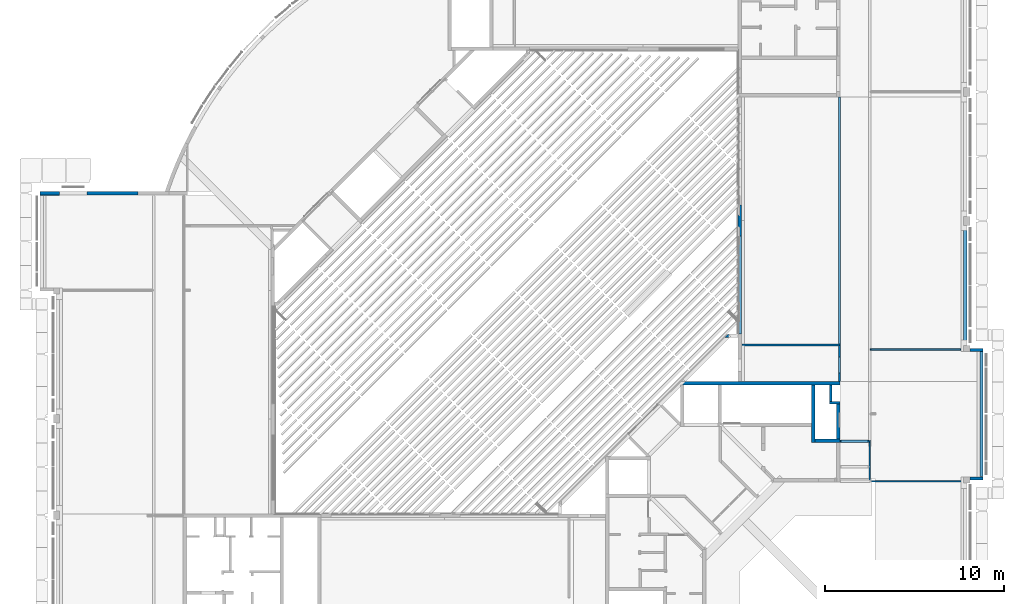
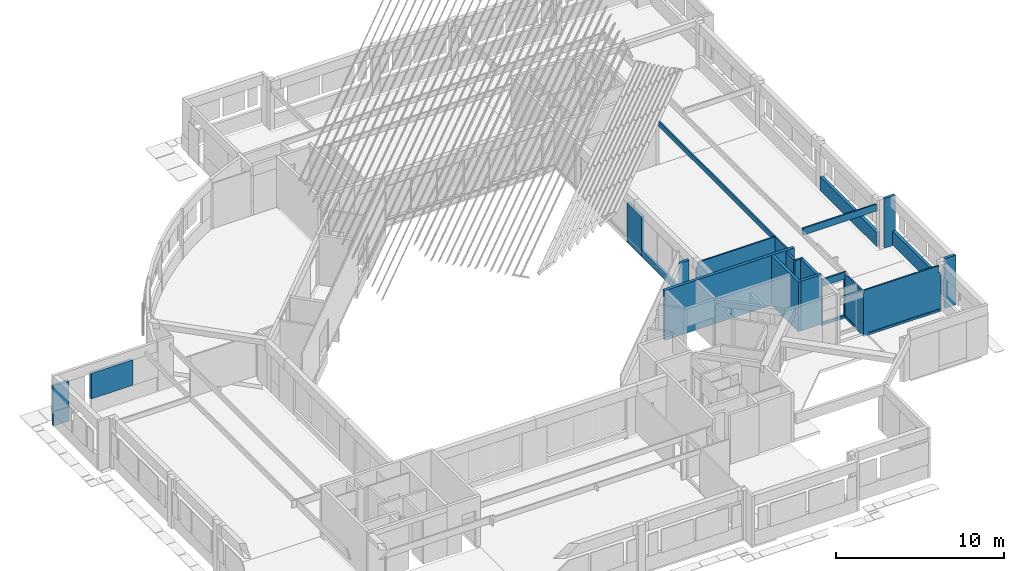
# One storey, part 28 of 37: 24 walls.
"""IFC4X3_ADD2 building model written with IfcOpenShell, lengths in millimetres."""

from ifc_helpers import new_model, si_unit, direction, frame, frame_2d, origin_with_axes, origin_2d_with_axis, place, context, subcontext, project, spatial, polyline, rectangle, outline, extrude, source, transform, mapped, material, type_object, type_shapes, element, save


model = new_model("IFC4X3_ADD2")

# Units and contexts
model_context = context("Model", 3, precision=1e-05, world=origin_with_axes(), true_north=direction((0.0, 1.0)))
body_context = subcontext(model_context, "Body", "Model", "MODEL_VIEW")
ifc_project = project(units=[si_unit("LENGTHUNIT", "METRE", prefix="MILLI"), si_unit("AREAUNIT", "SQUARE_METRE"), si_unit("VOLUMEUNIT", "CUBIC_METRE"), si_unit("PLANEANGLEUNIT", "RADIAN"), si_unit("TIMEUNIT", "SECOND"), si_unit("MASSUNIT", "GRAM")], contexts=[model_context])

# Site, building, storey
site_placement = place(None, origin_with_axes())
site = spatial("IfcSite", under=ifc_project, at=site_placement, Name="Site", CompositionType="ELEMENT")
building_placement = place(site_placement, origin_with_axes())
building = spatial("IfcBuilding", under=site, at=building_placement, Name="IFC Building Story")
storey_placement = place(building_placement, frame((0.0, 0.0, 3600.0), z_axis=(0.0, 0.0, 1.0), x_axis=(1.0, 0.0, 0.0)))
storey = spatial("IfcBuildingStorey", under=building, at=storey_placement, Name="010", Elevation=3600.0)

# Walls
ifc_material_1 = material(Name="BB_Beton_Bestaand")
wall_type_1 = type_object("IfcWallType", Name="BB_Beton_Bestaand 200", PredefinedType="NOTDEFINED", material=ifc_material_1)
wall_1_placement = place(storey_placement, origin_with_axes())
element("IfcWall", 1, at=wall_1_placement, inside=storey, type_object=wall_type_1, Name="Basic Wall:BB_XX_Wand uit beton, 200 mm", ObjectType="Basic Wall:BB_XX_Wand uit beton, 200 mm", PredefinedType="SOLIDWALL", context=body_context, shape_type="SweptSolid", body=[
    extrude(rectangle(XDim=8914.99999999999, YDim=200.0, at=origin_2d_with_axis()), frame((-11457.5, 20000.0, -80.0), z_axis=(0.0, 0.0, 1.0), x_axis=(1.0, 0.0, 0.0)), (0.0, 0.0, 1.0), 3600.0),
])
wall_2_placement = place(storey_placement, origin_with_axes())
element("IfcWall", 2, at=wall_2_placement, inside=storey, type_object=wall_type_1, Name="Basic Wall:BB_XX_Wand uit beton, 200 mm", ObjectType="Basic Wall:BB_XX_Wand uit beton, 200 mm", PredefinedType="SOLIDWALL", context=body_context, shape_type="SweptSolid", body=[
    extrude(rectangle(XDim=3199.999999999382, YDim=200.0, at=frame_2d((0.0, 0.0), x_axis=(0.0, 1.0))), frame((-8500.0, 18300.00000000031, -80.0), z_axis=(0.0, 0.0, 1.0), x_axis=(1.0, 0.0, 0.0)), (0.0, 0.0, 1.0), 3600.0),
])
wall_3_placement = place(storey_placement, origin_with_axes())
element("IfcWall", 3, at=wall_3_placement, inside=storey, type_object=wall_type_1, Name="Basic Wall:BB_XX_Wand uit beton, 200 mm", ObjectType="Basic Wall:BB_XX_Wand uit beton, 200 mm", PredefinedType="SOLIDWALL", context=body_context, shape_type="SweptSolid", body=[
    extrude(rectangle(XDim=1399.999999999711, YDim=200.0, at=origin_2d_with_axis()), frame((-7700.000000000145, 16800.0, -80.0), z_axis=(0.0, 0.0, 1.0), x_axis=(1.0, 0.0, 0.0)), (0.0, 0.0, 1.0), 3600.0),
])
wall_type_2 = type_object("IfcWallType", Name="BB_Beton_Bestaand 190", PredefinedType="NOTDEFINED", material=ifc_material_1)
wall_4_placement = place(storey_placement, origin_with_axes())
element("IfcWall", 4, at=wall_4_placement, inside=storey, type_object=wall_type_2, Name="Basic Wall:BB_XX_Wand uit beton, 190 mm", ObjectType="Basic Wall:BB_XX_Wand uit beton, 190 mm", PredefinedType="SOLIDWALL", context=body_context, shape_type="SweptSolid", body=[
    extrude(rectangle(XDim=1089.99999999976, YDim=190.0, at=origin_2d_with_axis()), frame((-51150.00000000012, 30600.0, -200.0), z_axis=(0.0, 0.0, 1.0), x_axis=(1.0, 0.0, 0.0)), (0.0, 0.0, 1.0), 1040.0),
])
wall_5_placement = place(storey_placement, origin_with_axes())
element("IfcWall", 5, at=wall_5_placement, inside=storey, type_object=wall_type_2, Name="Basic Wall:BB_XX_Wand uit beton, 190 mm", ObjectType="Basic Wall:BB_XX_Wand uit beton, 190 mm", PredefinedType="SOLIDWALL", context=body_context, shape_type="SweptSolid", body=[
    extrude(rectangle(XDim=7010.0000000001, YDim=190.0, at=frame_2d((0.0, 0.0), x_axis=(0.0, 1.0))), frame((900.0, 18299.99999999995, -200.0), z_axis=(0.0, 0.0, 1.0), x_axis=(1.0, 0.0, 0.0)), (0.0, 0.0, 1.0), 1040.0),
])
wall_6_placement = place(storey_placement, origin_with_axes())
element("IfcWall", 6, at=wall_6_placement, inside=storey, type_object=wall_type_2, Name="Basic Wall:BB_XX_Wand uit beton, 190 mm", ObjectType="Basic Wall:BB_XX_Wand uit beton, 190 mm", PredefinedType="SOLIDWALL", context=body_context, shape_type="SweptSolid", body=[
    extrude(rectangle(XDim=6709.999999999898, YDim=190.0, at=frame_2d((0.0, 0.0), x_axis=(0.0, 1.0))), frame((0.0, 25500.00000000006, -200.0), z_axis=(0.0, 0.0, 1.0), x_axis=(1.0, 0.0, 0.0)), (0.0, 0.0, 1.0), 1040.0),
])
wall_7_placement = place(storey_placement, origin_with_axes())
element("IfcWall", 7, at=wall_7_placement, inside=storey, type_object=wall_type_2, Name="Basic Wall:BB_XX_Wand uit beton, 190 mm", ObjectType="Basic Wall:BB_XX_Wand uit beton, 190 mm", PredefinedType="SOLIDWALL", context=body_context, shape_type="SweptSolid", body=[
    extrude(rectangle(XDim=1089.999999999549, YDim=190.0, at=origin_2d_with_axis()), frame((-51150.00000000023, 30630.0, 840.0), z_axis=(0.0, 0.0, 1.0), x_axis=(1.0, 0.0, 0.0)), (0.0, 0.0, 1.0), 1840.0),
])
wall_8_placement = place(storey_placement, origin_with_axes())
element("IfcWall", 8, at=wall_8_placement, inside=storey, type_object=wall_type_2, Name="Basic Wall:BB_XX_Wand uit beton, 190 mm", ObjectType="Basic Wall:BB_XX_Wand uit beton, 190 mm", PredefinedType="SOLIDWALL", context=body_context, shape_type="SweptSolid", body=[
    extrude(rectangle(XDim=1709.999999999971, YDim=190.0, at=frame_2d((0.0, 0.0), x_axis=(0.0, 1.0))), frame((-12600.0040658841, 29100.00000000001, -200.0), z_axis=(0.0, 0.0, 1.0), x_axis=(1.0, 0.0, 0.0)), (0.0, 0.0, 1.0), 2880.0),
])
wall_9_placement = place(storey_placement, origin_with_axes())
element("IfcWall", 9, at=wall_9_placement, inside=storey, type_object=wall_type_2, Name="Basic Wall:BB_XX_Wand uit beton, 190 mm", ObjectType="Basic Wall:BB_XX_Wand uit beton, 190 mm", PredefinedType="SOLIDWALL", context=body_context, shape_type="SweptSolid", body=[
    extrude(rectangle(XDim=5490.000000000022, YDim=190.0, at=frame_2d((0.0, 0.0), x_axis=(0.0, 1.0))), frame((-12600.0040658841, 25500.00000000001, -200.0), z_axis=(0.0, 0.0, 1.0), x_axis=(1.0, 0.0, 0.0)), (0.0, 0.0, 1.0), 449.999999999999),
])
wall_type_3 = type_object("IfcWallType", Name="BB_Beton_Bestaand 170", PredefinedType="NOTDEFINED", material=ifc_material_1)
wall_10_placement = place(storey_placement, origin_with_axes())
element("IfcWall", 10, at=wall_10_placement, inside=storey, type_object=wall_type_3, Name="Basic Wall:BB_XX_Wand uit beton, 170 mm", ObjectType="Basic Wall:BB_XX_Wand uit beton, 170 mm", PredefinedType="SOLIDWALL", context=body_context, shape_type="SweptSolid", body=[
    extrude(rectangle(XDim=749.999999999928, YDim=170.0, at=origin_2d_with_axis()), frame((620.0000000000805, 14690.0, -200.0), z_axis=(0.0, 0.0, 1.0), x_axis=(1.0, 0.0, 0.0)), (0.0, 0.0, 1.0), 3600.0),
])
wall_11_placement = place(storey_placement, origin_with_axes())
element("IfcWall", 11, at=wall_11_placement, inside=storey, type_object=wall_type_3, Name="Basic Wall:BB_XX_Wand uit beton, 170 mm", ObjectType="Basic Wall:BB_XX_Wand uit beton, 170 mm", PredefinedType="SOLIDWALL", context=body_context, shape_type="SweptSolid", body=[
    extrude(rectangle(XDim=750.0000000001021, YDim=169.9999999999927, at=origin_2d_with_axis()), frame((620.0000000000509, 21870.0, -200.0), z_axis=(0.0, 0.0, 1.0), x_axis=(1.0, 0.0, 0.0)), (0.0, 0.0, 1.0), 3600.0),
])
ifc_material_2 = material(Name="BB_Metselwerk_Bestaand")
wall_type_4 = type_object("IfcWallType", Name="BB_Metselwerk_Bestaand 140", PredefinedType="NOTDEFINED", material=ifc_material_2)
wall_12_placement = place(storey_placement, origin_with_axes())
element("IfcWall", 12, at=wall_12_placement, inside=storey, type_object=wall_type_4, Name="Basic Wall:BB_XX_Wand uit metselwerk, 140 mm", ObjectType="Basic Wall:BB_XX_Wand uit metselwerk, 140 mm", PredefinedType="SOLIDWALL", context=body_context, shape_type="SweptSolid", body=[
    extrude(rectangle(XDim=589.9999999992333, YDim=140.0, at=origin_2d_with_axis()), frame((-7294.999999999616, 18930.0, -200.0), z_axis=(0.0, 0.0, 1.0), x_axis=(1.0, 0.0, 0.0)), (0.0, 0.0, 1.0), 3600.0),
])
wall_13_placement = place(storey_placement, origin_with_axes())
element("IfcWall", 13, at=wall_13_placement, inside=storey, type_object=wall_type_4, Name="Basic Wall:BB_XX_Wand uit metselwerk, 140 mm", ObjectType="Basic Wall:BB_XX_Wand uit metselwerk, 140 mm", PredefinedType="SOLIDWALL", context=body_context, shape_type="SweptSolid", body=[
    extrude(rectangle(XDim=899.9999999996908, YDim=140.0, at=frame_2d((0.0, 0.0), x_axis=(0.0, 1.0))), frame((-7520.0, 19449.99999999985, -200.0), z_axis=(0.0, 0.0, 1.0), x_axis=(1.0, 0.0, 0.0)), (0.0, 0.0, 1.0), 3600.0),
])
wall_type_5 = type_object("IfcWallType", Name="BB_Metselwerk_Bestaand 190", PredefinedType="NOTDEFINED", material=ifc_material_2)
wall_14_placement = place(storey_placement, origin_with_axes())
element("IfcWall", 14, at=wall_14_placement, inside=storey, type_object=wall_type_5, Name="Basic Wall:BB_XX_Wand uit metselwerk, 190 mm", ObjectType="Basic Wall:BB_XX_Wand uit metselwerk, 190 mm", PredefinedType="SOLIDWALL", context=body_context, shape_type="SweptSolid", body=[
    extrude(rectangle(XDim=1959.99999999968, YDim=190.0, at=frame_2d((0.0, 0.0), x_axis=(0.0, 1.0))), frame((-7095.0, 17879.99999999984, -200.0), z_axis=(0.0, 0.0, 1.0), x_axis=(1.0, 0.0, 0.0)), (0.0, 0.0, 1.0), 3600.0),
])
ifc_material_3 = material(Name="BB_Metselwerk_Betonsteen")
wall_type_6 = type_object("IfcWallType", Name="BB_Metselwerk_Betonsteen 190", PredefinedType="NOTDEFINED", material=ifc_material_3)
wall_15_placement = place(storey_placement, origin_with_axes())
element("IfcWall", 15, at=wall_15_placement, inside=storey, type_object=wall_type_6, Name="Basic Wall:BB_03.09.24#03_Wand uit metselwerk, 190 mm", ObjectType="Basic Wall:BB_03.09.24#03_Wand uit metselwerk, 190 mm", PredefinedType="SOLIDWALL", context=body_context, shape_type="SweptSolid", body=[
    extrude(rectangle(XDim=2850.000000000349, YDim=190.0, at=origin_2d_with_axis()), frame((-47659.99999999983, 30630.0, 840.0), z_axis=(0.0, 0.0, 1.0), x_axis=(1.0, 0.0, 0.0)), (0.0, 0.0, 1.0), 1840.0),
])
wall_16_placement = place(storey_placement, origin_with_axes())
element("IfcWall", 16, at=wall_16_placement, inside=storey, type_object=wall_type_6, Name="Basic Wall:BB_03.09.24#03_Wand uit metselwerk, 190 mm", ObjectType="Basic Wall:BB_03.09.24#03_Wand uit metselwerk, 190 mm", PredefinedType="SOLIDWALL", context=body_context, shape_type="SweptSolid", body=[
    extrude(outline(polyline([(-229.8221358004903, 95.0), (324.8221358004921, 95.0), (324.8221358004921, -95.0), (-419.8221358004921, -95.0), (-229.8221358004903, 95.0)])), frame((-13019.82620168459, 22660.0, -200.0), z_axis=(0.0, 0.0, 1.0), x_axis=(1.0, 0.0, 0.0)), (0.0, 0.0, 1.0), 3200.00000005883),
])
wall_type_7 = type_object("IfcWallType", Name="Basic Wall_BB_10.01.41#21_Gipskartonwand_EI60_43dB_MS100 _ 25.50.25_ 100 mm25", PredefinedType="NOTDEFINED")
shared_shape_1 = source(origin_with_axes(), body_context, "Body", "SweptSolid", [
    extrude(rectangle(XDim=5495.00406588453, YDim=12.5, at=origin_2d_with_axis()), frame((2747.502032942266, 43.75, 0.0), z_axis=(0.0, 0.0, 1.0), x_axis=(1.0, 0.0, 0.0)), (0.0, 0.0, 1.0), 169.9999999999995),
    extrude(outline(polyline([(-1741.66802196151, -761.6666666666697), (-1876.66802196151, -761.6666666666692), (-1876.66802196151, 1883.333333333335), (3618.33604392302, 1883.333333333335), (3618.33604392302, -1121.666666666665), (-1741.66802196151, -1121.666666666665), (-1741.66802196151, -761.6666666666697)])), frame((1876.66802196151, 37.5, 2078.333333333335), z_axis=(0.0, 1.0, 0.0), x_axis=(1.0, 0.0, 0.0)), (0.0, 0.0, 1.0), 12.5),
    extrude(rectangle(XDim=5482.50406588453, YDim=12.5, at=origin_2d_with_axis()), frame((2741.252032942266, 31.25, 0.0), z_axis=(0.0, 0.0, 1.0), x_axis=(1.0, 0.0, 0.0)), (0.0, 0.0, 1.0), 169.9999999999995),
    extrude(outline(polyline([(-1737.501355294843, -761.6666666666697), (-1872.501355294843, -761.6666666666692), (-1872.501355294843, 1883.333333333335), (3610.002710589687, 1883.333333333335), (3610.002710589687, -1121.666666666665), (-1737.501355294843, -1121.666666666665), (-1737.501355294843, -761.6666666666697)])), frame((1872.501355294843, 25.0, 2078.333333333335), z_axis=(0.0, 1.0, 0.0), x_axis=(1.0, 0.0, 0.0)), (0.0, 0.0, 1.0), 12.5),
    extrude(rectangle(XDim=5470.00406588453, YDim=50.0, at=origin_2d_with_axis()), frame((2735.002032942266, 0.0, 0.0), z_axis=(0.0, 0.0, 1.0), x_axis=(1.0, 0.0, 0.0)), (0.0, 0.0, 1.0), 169.9999999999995),
    extrude(outline(polyline([(-1740.001355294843, -761.6666666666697), (-1865.001355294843, -761.6666666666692), (-1865.001355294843, 1883.333333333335), (3605.002710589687, 1883.333333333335), (3605.002710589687, -1121.666666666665), (-1740.001355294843, -1121.666666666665), (-1740.001355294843, -761.6666666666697)])), frame((1865.001355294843, -25.0, 2078.333333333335), z_axis=(0.0, 1.0, 0.0), x_axis=(1.0, 0.0, 0.0)), (0.0, 0.0, 1.0), 49.99999999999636),
    extrude(rectangle(XDim=5420.00406588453, YDim=12.5, at=origin_2d_with_axis()), frame((2710.002032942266, -31.25, 0.0), z_axis=(0.0, 0.0, 1.0), x_axis=(1.0, 0.0, 0.0)), (0.0, 0.0, 1.0), 169.9999999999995),
    extrude(outline(polyline([(-1716.66802196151, -761.6666666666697), (-1851.66802196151, -761.6666666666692), (-1851.66802196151, 1883.333333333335), (3568.33604392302, 1883.333333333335), (3568.33604392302, -1121.666666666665), (-1716.66802196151, -1121.666666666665), (-1716.66802196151, -761.6666666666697)])), frame((1851.66802196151, -37.5, 2078.333333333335), z_axis=(0.0, 1.0, 0.0), x_axis=(1.0, 0.0, 0.0)), (0.0, 0.0, 1.0), 12.5),
    extrude(rectangle(XDim=5407.50406588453, YDim=12.49999999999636, at=origin_2d_with_axis()), frame((2703.752032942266, -43.75, 0.0), z_axis=(0.0, 0.0, 1.0), x_axis=(1.0, 0.0, 0.0)), (0.0, 0.0, 1.0), 169.9999999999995),
    extrude(outline(polyline([(-1712.501355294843, -761.6666666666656), (-1847.501355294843, -761.6666666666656), (-1847.501355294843, 1883.333333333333), (3560.002710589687, 1883.333333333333), (3560.002710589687, -1121.666666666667), (-1712.501355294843, -1121.666666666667), (-1712.501355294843, -761.6666666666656)])), frame((1847.501355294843, -50.0, 2078.333333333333), z_axis=(0.0, 1.0, 0.0), x_axis=(1.0, 0.0, 0.0)), (0.0, 0.0, 1.0), 12.49999999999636),
])
type_shapes(wall_type_7, [shared_shape_1])
wall_17_placement = place(storey_placement, frame((-12480.0040658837, 22150.0, -200.0), z_axis=(0.0, 0.0, 1.0), x_axis=(1.0, 0.0, 0.0)))
element("IfcWall", 17, at=wall_17_placement, inside=storey, type_object=wall_type_7, Name="Basic Wall:BB_10.01.41#21_Gipskartonwand_EI60_43dB_MS100 / 25.50.25, 100 mm", ObjectType="Basic Wall:BB_10.01.41#21_Gipskartonwand_EI60_43dB_MS100 / 25.50.25, 100 mm", PredefinedType="PARTITIONING", context=body_context, shape_type="MappedRepresentation", body=[
    mapped(shared_shape_1, transform((0.0, 0.0, 0.0))),
])
wall_type_8 = type_object("IfcWallType", Name="Basic Wall_BB_10.01.41#21_Gipskartonwand_EI60_43dB_MS100 _ 25.50.25_ 100 mm27", PredefinedType="NOTDEFINED")
shared_shape_2 = source(origin_with_axes(), body_context, "Body", "SweptSolid", [
    extrude(outline(polyline([(510.624999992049, -872.5000000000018), (510.624999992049, 1292.500000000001), (970.6250000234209, 1292.500000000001), (970.6250000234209, -1712.499999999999), (-1101.875000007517, -1712.499999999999), (-1101.875000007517, 1292.500000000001), (-379.3750000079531, 1292.500000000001), (-379.3750000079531, -872.5000000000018), (510.624999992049, -872.5000000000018)])), frame((1014.375000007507, 37.5, 1487.500000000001), z_axis=(0.0, 1.0, 0.0), x_axis=(1.0, 0.0, 0.0)), (0.0, 0.0, 1.0), 12.49999999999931),
    extrude(rectangle(XDim=2072.50000003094, YDim=12.49999999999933, at=origin_2d_with_axis()), frame((948.7500000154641, 43.75000000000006, 0.0), z_axis=(0.0, 0.0, 1.0), x_axis=(1.0, 0.0, 0.0)), (0.0, 0.0, 1.0), 170.0),
    extrude(outline(polyline([(967.5000000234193, 1292.500000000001), (967.5000000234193, -1712.499999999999), (-1092.500000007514, -1712.499999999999), (-1092.500000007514, 1292.500000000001), (-382.5000000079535, 1292.500000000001), (-382.5000000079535, -872.5000000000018), (507.4999999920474, -872.5000000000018), (507.4999999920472, 1292.500000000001), (967.5000000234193, 1292.500000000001)])), frame((1017.499999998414, 25.0, 1487.500000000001), z_axis=(0.0, 1.0, 0.0), x_axis=(1.0, 0.0, 0.0)), (0.0, 0.0, 1.0), 12.5000000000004),
    extrude(rectangle(XDim=2060.00000003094, YDim=12.50000000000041, at=origin_2d_with_axis()), frame((955.0, 31.2500000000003, 0.0), z_axis=(0.0, 0.0, 1.0), x_axis=(1.0, 0.0, 0.0)), (0.0, 0.0, 1.0), 170.0),
    extrude(outline(polyline([(955.0000000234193, 1292.500000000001), (955.0000000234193, -1712.499999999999), (-1055.000000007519, -1712.499999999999), (-1055.000000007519, 1292.500000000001), (-395.0000000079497, 1292.500000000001), (-395.0000000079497, -872.5000000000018), (494.9999999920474, -872.5000000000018), (494.9999999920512, 1292.500000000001), (955.0000000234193, 1292.500000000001)])), frame((1029.999999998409, -25.0, 1487.500000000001), z_axis=(0.0, 1.0, 0.0), x_axis=(1.0, 0.0, 0.0)), (0.0, 0.0, 1.0), 49.9999999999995),
    extrude(rectangle(XDim=2010.00000003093, YDim=49.9999999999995, at=origin_2d_with_axis()), frame((980.000000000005, 0.0, 0.0), z_axis=(0.0, 0.0, 1.0), x_axis=(1.0, 0.0, 0.0)), (0.0, 0.0, 1.0), 170.0),
    extrude(outline(polyline([(951.8750000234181, 1292.500000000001), (951.8750000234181, -1712.499999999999), (-1045.625000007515, -1712.499999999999), (-1045.625000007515, 1292.500000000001), (-398.1250000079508, 1292.500000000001), (-398.1250000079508, -872.5000000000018), (491.8749999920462, -872.5000000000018), (491.8749999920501, 1292.500000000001), (951.8750000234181, 1292.500000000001)])), frame((1033.125000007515, -37.4999999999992, 1487.500000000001), z_axis=(0.0, 1.0, 0.0), x_axis=(1.0, 0.0, 0.0)), (0.0, 0.0, 1.0), 12.50000000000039),
    extrude(rectangle(XDim=1997.500000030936, YDim=12.50000000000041, at=origin_2d_with_axis()), frame((986.2500000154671, -31.2499999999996, 0.0), z_axis=(0.0, 0.0, 1.0), x_axis=(1.0, 0.0, 0.0)), (0.0, 0.0, 1.0), 170.0),
    extrude(outline(polyline([(488.7499999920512, -872.5000000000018), (488.7499999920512, 1292.500000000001), (948.7500000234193, 1292.500000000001), (948.7500000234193, -1712.499999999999), (-1036.250000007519, -1712.499999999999), (-1036.250000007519, 1292.500000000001), (-401.2500000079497, 1292.500000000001), (-401.2500000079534, -872.5000000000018), (488.7499999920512, -872.5000000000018)])), frame((1036.250000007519, -50.0, 1487.500000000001), z_axis=(0.0, 1.0, 0.0), x_axis=(1.0, 0.0, 0.0)), (0.0, 0.0, 1.0), 12.5000000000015),
    extrude(rectangle(XDim=1985.000000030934, YDim=12.50000000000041, at=origin_2d_with_axis()), frame((992.500000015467, -43.75, 0.0), z_axis=(0.0, 0.0, 1.0), x_axis=(1.0, 0.0, 0.0)), (0.0, 0.0, 1.0), 170.0),
])
type_shapes(wall_type_8, [shared_shape_2])
wall_18_placement = place(storey_placement, frame((-7035.0, 22100.0, -200.0), z_axis=(0.0, 0.0, 1.0), x_axis=(0.0, -1.0, 0.0)))
element("IfcWall", 18, at=wall_18_placement, inside=storey, type_object=wall_type_8, Name="Basic Wall:BB_10.01.41#21_Gipskartonwand_EI60_43dB_MS100 / 25.50.25, 100 mm", ObjectType="Basic Wall:BB_10.01.41#21_Gipskartonwand_EI60_43dB_MS100 / 25.50.25, 100 mm", PredefinedType="PARTITIONING", context=body_context, shape_type="MappedRepresentation", body=[
    mapped(shared_shape_2, transform((0.0, 0.0, 0.0))),
])
wall_type_9 = type_object("IfcWallType", Name="Basic Wall_BB_10.01.41#21_Gipskartonwand_EI60_43dB_MS100 _ 25.50.25_ 100 mm29", PredefinedType="NOTDEFINED")
shared_shape_3 = source(origin_with_axes(), body_context, "Body", "SweptSolid", [
    extrude(outline(polyline([(2239.642857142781, 1679.285714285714), (-2740.357142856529, 1679.285714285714), (-2740.357142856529, 1654.285714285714), (2239.642857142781, 1654.285714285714), (2239.642857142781, -990.7142857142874), (2089.642857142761, -990.7142857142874), (2089.642857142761, -1350.714285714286), (2114.642857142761, -1350.714285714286), (2114.642857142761, -1490.714285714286), (-2990.357142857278, -1490.714285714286), (-2990.357142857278, -1350.714285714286), (-2952.857142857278, -1350.714285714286), (-2952.857142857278, 1849.285714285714), (2239.642857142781, 1849.285714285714), (2239.642857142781, 1679.285714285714)])), frame((3040.357142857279, 37.5, 1849.285714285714), z_axis=(0.0, 1.0, 0.0), x_axis=(1.0, 0.0, 0.0)), (0.0, 0.0, 1.0), 12.50000000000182),
    extrude(outline(polyline([(2241.428571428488, 1679.285714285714), (-2738.571428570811, 1679.285714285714), (-2738.571428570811, 1654.285714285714), (2241.428571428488, 1654.285714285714), (2241.428571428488, -990.7142857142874), (2091.428571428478, -990.7142857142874), (2091.428571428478, -1350.714285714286), (2116.428571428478, -1350.714285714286), (2116.428571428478, -1490.714285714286), (-2988.571428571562, -1490.714285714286), (-2988.571428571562, -1350.714285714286), (-2963.571428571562, -1350.714285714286), (-2963.571428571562, 1849.285714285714), (2241.428571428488, 1849.285714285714), (2241.428571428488, 1679.285714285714)])), frame((3038.571428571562, 25.0, 1849.285714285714), z_axis=(0.0, 1.0, 0.0), x_axis=(1.0, 0.0, 0.0)), (0.0, 0.0, 1.0), 12.5),
    extrude(outline(polyline([(2248.571428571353, 1679.285714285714), (-2731.428571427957, 1679.285714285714), (-2731.428571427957, 1654.285714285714), (2248.571428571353, 1654.285714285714), (2248.571428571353, -990.7142857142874), (2098.571428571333, -990.7142857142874), (2098.571428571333, -1350.714285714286), (2123.571428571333, -1350.714285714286), (2123.571428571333, -1490.714285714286), (-2981.428571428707, -1490.714285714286), (-2981.428571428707, -1350.714285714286), (-3006.428571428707, -1350.714285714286), (-3006.428571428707, 1849.285714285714), (2248.571428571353, 1849.285714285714), (2248.571428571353, 1679.285714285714)])), frame((3031.428571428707, -25.0, 1849.285714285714), z_axis=(0.0, 1.0, 0.0), x_axis=(1.0, 0.0, 0.0)), (0.0, 0.0, 1.0), 50.00000000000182),
    extrude(outline(polyline([(2250.357142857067, 1679.285714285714), (-2729.642857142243, 1679.285714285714), (-2729.642857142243, 1654.285714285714), (2250.357142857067, 1654.285714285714), (2250.357142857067, -990.7142857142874), (2100.357142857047, -990.7142857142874), (2100.357142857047, -1350.714285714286), (2125.357142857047, -1350.714285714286), (2125.357142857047, -1490.714285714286), (-2979.642857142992, -1490.714285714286), (-2979.642857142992, -1350.714285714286), (-3017.142857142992, -1350.714285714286), (-3017.142857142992, 1849.285714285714), (2250.357142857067, 1849.285714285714), (2250.357142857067, 1679.285714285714)])), frame((3029.642857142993, -37.5, 1849.285714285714), z_axis=(0.0, 1.0, 0.0), x_axis=(1.0, 0.0, 0.0)), (0.0, 0.0, 1.0), 12.5),
    extrude(outline(polyline([(-3027.857142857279, 1849.285714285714), (2252.142857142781, 1849.285714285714), (2252.142857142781, 1679.285714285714), (-2727.857142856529, 1679.285714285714), (-2727.857142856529, 1654.285714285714), (2252.142857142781, 1654.285714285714), (2252.142857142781, -990.7142857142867), (2102.142857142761, -990.7142857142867), (2102.142857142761, -1350.714285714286), (2127.142857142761, -1350.714285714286), (2127.142857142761, -1490.714285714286), (-2977.857142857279, -1490.714285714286), (-2977.857142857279, -1350.714285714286), (-3027.857142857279, -1350.714285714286), (-3027.857142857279, 1849.285714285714)])), frame((3027.857142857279, -50.0, 1849.285714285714), z_axis=(0.0, 1.0, 0.0), x_axis=(1.0, 0.0, 0.0)), (0.0, 0.0, 1.0), 12.5),
])
type_shapes(wall_type_9, [shared_shape_3])
wall_19_placement = place(storey_placement, frame((-5400.0, 14535.0, -200.0), z_axis=(0.0, 0.0, 1.0), x_axis=(1.0, 0.0, 0.0)))
element("IfcWall", 19, at=wall_19_placement, inside=storey, type_object=wall_type_9, Name="Basic Wall:BB_10.01.41#21_Gipskartonwand_EI60_43dB_MS100 / 25.50.25, 100 mm", ObjectType="Basic Wall:BB_10.01.41#21_Gipskartonwand_EI60_43dB_MS100 / 25.50.25, 100 mm", PredefinedType="PARTITIONING", context=body_context, shape_type="MappedRepresentation", body=[
    mapped(shared_shape_3, transform((0.0, 0.0, 0.0))),
])
wall_type_10 = type_object("IfcWallType", Name="Basic Wall_BB_10.01.41#21_Gipskartonwand_EI60_43dB_MS100 _ 25.50.25_ 100 mm31", PredefinedType="NOTDEFINED")
shared_shape_4 = source(origin_with_axes(), body_context, "Body", "SweptSolid", [
    extrude(outline(polyline([(-1298.125000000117, -2308.75), (-1298.125000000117, 891.2499999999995), (904.3749999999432, 891.2499999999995), (904.3749999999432, 721.2499999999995), (-510.6249999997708, 721.2499999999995), (-510.6249999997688, 696.2500000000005), (904.3749999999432, 696.2500000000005), (904.3749999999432, -2308.75), (-1298.125000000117, -2308.75)])), frame((1210.625000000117, 37.50000000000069, 891.2500000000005), z_axis=(0.0, 1.0, 0.0), x_axis=(1.0, 0.0, 0.0)), (0.0, 0.0, 1.0), 12.49999999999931),
    extrude(outline(polyline([(-1291.875000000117, -2308.75), (-1291.875000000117, 891.2499999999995), (898.1249999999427, 891.2499999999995), (898.1249999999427, 721.2499999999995), (-516.8749999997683, 721.2499999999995), (-516.8749999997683, 696.2500000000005), (910.6249999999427, 696.2500000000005), (910.6249999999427, -2308.75), (-1291.875000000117, -2308.75)])), frame((1216.874999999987, 25.0, 891.2500000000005), z_axis=(0.0, 1.0, 0.0), x_axis=(1.0, 0.0, 0.0)), (0.0, 0.0, 1.0), 12.50000000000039),
    extrude(outline(polyline([(-1257.500000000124, -2308.75), (-1257.500000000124, 891.2499999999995), (882.4999999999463, 891.2499999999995), (882.4999999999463, 721.2499999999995), (-532.4999999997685, 721.2499999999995), (-532.4999999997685, 696.2500000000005), (907.4999999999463, 696.2500000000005), (907.4999999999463, -2308.75), (-1257.500000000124, -2308.75)])), frame((1232.500000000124, -24.9999999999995, 891.2500000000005), z_axis=(0.0, 1.0, 0.0), x_axis=(1.0, 0.0, 0.0)), (0.0, 0.0, 1.0), 49.9999999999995),
    extrude(outline(polyline([(-1260.625000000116, -2308.75), (-1260.625000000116, 891.2499999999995), (866.8749999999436, 891.2499999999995), (866.8749999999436, 721.2499999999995), (-548.1249999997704, 721.2499999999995), (-548.1249999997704, 696.2500000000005), (941.8749999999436, 696.2500000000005), (941.8749999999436, -2308.75), (-1260.625000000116, -2308.75)])), frame((1248.125000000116, -37.5000000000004, 891.2500000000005), z_axis=(0.0, 1.0, 0.0), x_axis=(1.0, 0.0, 0.0)), (0.0, 0.0, 1.0), 12.5000000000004),
    extrude(outline(polyline([(-1254.375000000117, -2308.75), (-1254.375000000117, 891.2499999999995), (860.6249999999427, 891.2499999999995), (860.6249999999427, 721.2499999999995), (-554.3749999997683, 721.2499999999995), (-554.3749999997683, 696.2500000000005), (948.1249999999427, 696.2500000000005), (948.1249999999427, -2308.75), (-1254.375000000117, -2308.75)])), frame((1254.375000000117, -49.9999999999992, 891.2500000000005), z_axis=(0.0, 1.0, 0.0), x_axis=(1.0, 0.0, 0.0)), (0.0, 0.0, 1.0), 12.5000000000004),
])
type_shapes(wall_type_10, [shared_shape_4])
wall_20_placement = place(storey_placement, frame((-5350.0, 14585.0, -200.0), z_axis=(0.0, 0.0, 1.0), x_axis=(0.0, 1.0, 0.0)))
element("IfcWall", 20, at=wall_20_placement, inside=storey, type_object=wall_type_10, Name="Basic Wall:BB_10.01.41#21_Gipskartonwand_EI60_43dB_MS100 / 25.50.25, 100 mm", ObjectType="Basic Wall:BB_10.01.41#21_Gipskartonwand_EI60_43dB_MS100 / 25.50.25, 100 mm", PredefinedType="PARTITIONING", context=body_context, shape_type="MappedRepresentation", body=[
    mapped(shared_shape_4, transform((0.0, 0.0, 0.0))),
])
wall_type_11 = type_object("IfcWallType", Name="Basic Wall_BB_10.01.41#01_Gipskartonwand_MS100 _ 25.50.25_ 100 mm41", PredefinedType="NOTDEFINED")
shared_shape_5 = source(origin_with_axes(), body_context, "Body", "SweptSolid", [
    extrude(rectangle(XDim=5030.0, YDim=12.50000000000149, at=origin_2d_with_axis()), frame((2515.0, 43.74999999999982, 0.0), z_axis=(0.0, 0.0, 1.0), x_axis=(1.0, 0.0, 0.0)), (0.0, 0.0, 1.0), 500.000000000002),
    extrude(outline(polyline([(-3357.5, -213.3333333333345), (-3357.5, 286.6666666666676), (1685.0, 286.6666666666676), (1685.0, -73.33333333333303), (1672.5, -73.33333333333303), (1672.5, -213.3333333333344), (-3357.5, -213.3333333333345)])), frame((3357.5, 25.000000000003, 286.6666666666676), z_axis=(0.0, 1.0, 0.0), x_axis=(1.0, 0.0, 0.0)), (0.0, 0.0, 1.0), 12.5000000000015),
    extrude(outline(polyline([(-3361.666666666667, -213.3333333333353), (-3361.666666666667, 286.6666666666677), (1693.333333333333, 286.6666666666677), (1693.333333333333, -73.33333333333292), (1668.333333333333, -73.33333333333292), (1668.333333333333, -213.3333333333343), (-3361.666666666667, -213.3333333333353)])), frame((3361.666666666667, -24.9999999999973, 286.6666666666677), z_axis=(0.0, 1.0, 0.0), x_axis=(1.0, 0.0, 0.0)), (0.0, 0.0, 1.0), 49.9999999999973),
    extrude(rectangle(XDim=5030.0, YDim=12.50000000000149, at=origin_2d_with_axis()), frame((2515.0, -31.24999999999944, 0.0), z_axis=(0.0, 0.0, 1.0), x_axis=(1.0, 0.0, 0.0)), (0.0, 0.0, 1.0), 500.000000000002),
    extrude(rectangle(XDim=5030.0, YDim=12.49999999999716, at=origin_2d_with_axis()), frame((2515.0, -43.74999999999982, 0.0), z_axis=(0.0, 0.0, 1.0), x_axis=(1.0, 0.0, 0.0)), (0.0, 0.0, 1.0), 500.000000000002),
])
type_shapes(wall_type_11, [shared_shape_5])
wall_21_placement = place(storey_placement, frame((-270.0, 21900.0, 2640.0), z_axis=(0.0, 0.0, 1.0), x_axis=(-1.0, 0.0, 0.0)))
element("IfcWall", 21, at=wall_21_placement, inside=storey, type_object=wall_type_11, Name="Basic Wall:BB_10.01.41#01_Gipskartonwand_MS100 / 25.50.25, 100 mm", ObjectType="Basic Wall:BB_10.01.41#01_Gipskartonwand_MS100 / 25.50.25, 100 mm", PredefinedType="PARTITIONING", context=body_context, shape_type="MappedRepresentation", body=[
    mapped(shared_shape_5, transform((0.0, 0.0, 0.0))),
])
wall_type_12 = type_object("IfcWallType", Name="Basic Wall_BB_10.01.41#01_Gipskartonwand_MS100 _ 25.50.25_ 100 mm45", PredefinedType="NOTDEFINED")
shared_shape_6 = source(origin_with_axes(), body_context, "Body", "SweptSolid", [
    extrude(rectangle(XDim=13800.00000000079, YDim=12.49999999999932, at=origin_2d_with_axis()), frame((6900.0, 43.7499999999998, 0.0), z_axis=(0.0, 0.0, 1.0), x_axis=(1.0, 0.0, 0.0)), (0.0, 0.0, 1.0), 360.0),
    extrude(rectangle(XDim=13800.00000000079, YDim=12.5000000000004, at=origin_2d_with_axis()), frame((6899.999999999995, 31.2500000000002, 0.0), z_axis=(0.0, 0.0, 1.0), x_axis=(1.0, 0.0, 0.0)), (0.0, 0.0, 1.0), 360.0),
    extrude(rectangle(XDim=13800.00000000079, YDim=49.9999999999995, at=origin_2d_with_axis()), frame((6900.0, 0.0, 0.0), z_axis=(0.0, 0.0, 1.0), x_axis=(1.0, 0.0, 0.0)), (0.0, 0.0, 1.0), 360.0),
    extrude(rectangle(XDim=13800.00000000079, YDim=12.5000000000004, at=origin_2d_with_axis()), frame((6900.000000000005, -31.2499999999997, 0.0), z_axis=(0.0, 0.0, 1.0), x_axis=(1.0, 0.0, 0.0)), (0.0, 0.0, 1.0), 360.0),
    extrude(rectangle(XDim=13800.00000000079, YDim=12.5000000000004, at=origin_2d_with_axis()), frame((6900.0, -43.75000000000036, 0.0), z_axis=(0.0, 0.0, 1.0), x_axis=(1.0, 0.0, 0.0)), (0.0, 0.0, 1.0), 360.0),
])
type_shapes(wall_type_12, [shared_shape_6])
wall_22_placement = place(storey_placement, frame((-7035.0, 36000.0, 2640.0), z_axis=(0.0, 0.0, 1.0), x_axis=(0.0, -1.0, 0.0)))
element("IfcWall", 22, at=wall_22_placement, inside=storey, type_object=wall_type_12, Name="Basic Wall:BB_10.01.41#01_Gipskartonwand_MS100 / 25.50.25, 100 mm", ObjectType="Basic Wall:BB_10.01.41#01_Gipskartonwand_MS100 / 25.50.25, 100 mm", PredefinedType="PARTITIONING", context=body_context, shape_type="MappedRepresentation", body=[
    mapped(shared_shape_6, transform((0.0, 0.0, 0.0))),
])
wall_type_13 = type_object("IfcWallType", Name="Basic Wall_BB_10.01.41#21_Gipskartonwand_EI60_43dB_MS100 _ 25.50.25_ 100 mm37", PredefinedType="NOTDEFINED")
shared_shape_7 = source(origin_with_axes(), body_context, "Body", "SweptSolid", [
    extrude(outline(polyline([(-868.7500000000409, 1450.0), (-733.7499999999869, 1450.0), (-733.7499999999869, -1200.000000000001), (786.2500000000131, -1200.000000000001), (786.2500000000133, 1450.0), (816.2500000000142, 1450.0), (816.2500000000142, -1700.0), (-868.7500000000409, -1700.0), (-868.7500000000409, 1450.0)])), frame((868.7500000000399, -49.9999999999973, 1450.0), z_axis=(0.0, 1.0, 0.0), x_axis=(1.0, 0.0, 0.0)), (0.0, 0.0, 1.0), 12.49999999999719),
    extrude(outline(polyline([(-685.0000000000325, 1762.000000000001), (-562.4999999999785, 1762.000000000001), (-562.4999999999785, -888.0000000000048), (957.5000000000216, -888.0000000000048), (957.5000000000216, 1762.000000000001), (987.5000000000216, 1762.000000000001), (987.5000000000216, -1387.999999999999), (-697.5000000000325, -1387.999999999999), (-697.5000000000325, -1247.999999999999), (-685.0000000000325, -1247.999999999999), (-685.0000000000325, 1762.000000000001)])), frame((697.5000000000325, -37.50000000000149, 1762.000000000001), z_axis=(0.0, 1.0, 0.0), x_axis=(1.0, 0.0, 0.0)), (0.0, 0.0, 1.0), 12.50000000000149),
    extrude(outline(polyline([(-675.000000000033, 1762.000000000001), (-564.999999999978, 1762.000000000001), (-564.9999999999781, -888.0000000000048), (955.000000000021, -888.0000000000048), (955.000000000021, 1762.000000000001), (985.0000000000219, 1762.000000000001), (985.0000000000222, -1387.999999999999), (-700.000000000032, -1387.999999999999), (-700.000000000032, -1247.999999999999), (-675.000000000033, -1247.999999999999), (-675.000000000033, 1762.000000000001)])), frame((700.000000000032, -25.0000000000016, 1762.000000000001), z_axis=(0.0, 1.0, 0.0), x_axis=(1.0, 0.0, 0.0)), (0.0, 0.0, 1.0), 50.00000000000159),
    extrude(outline(polyline([(-635.0000000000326, 1762.000000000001), (-574.9999999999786, 1762.000000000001), (-574.9999999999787, -888.0000000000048), (945.0000000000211, -888.0000000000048), (945.0000000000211, 1762.000000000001), (975.0000000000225, 1762.000000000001), (975.0000000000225, -1387.999999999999), (-710.0000000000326, -1387.999999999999), (-710.0000000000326, -1247.999999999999), (-635.0000000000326, -1247.999999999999), (-635.0000000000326, 1762.000000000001)])), frame((710.0000000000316, 25.0000000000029, 1762.000000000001), z_axis=(0.0, 1.0, 0.0), x_axis=(1.0, 0.0, 0.0)), (0.0, 0.0, 1.0), 12.49999999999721),
    extrude(outline(polyline([(942.5000000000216, 1762.000000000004), (972.5000000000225, 1762.000000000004), (972.5000000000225, -1387.999999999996), (-712.5000000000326, -1387.999999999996), (-712.5000000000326, -1248.000000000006), (-625.0000000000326, -1248.000000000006), (-625.0000000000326, 1762.000000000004), (-577.4999999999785, 1762.000000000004), (-577.4999999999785, -888.0000000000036), (942.5000000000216, -888.0000000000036), (942.5000000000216, 1762.000000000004)])), frame((712.5000000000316, 37.49999999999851, 1762.000000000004), z_axis=(0.0, 1.0, 0.0), x_axis=(1.0, 0.0, 0.0)), (0.0, 0.0, 1.0), 12.50000000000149),
])
type_shapes(wall_type_13, [shared_shape_7])
wall_23_placement = place(storey_placement, frame((-5300.0, 16750.0, -10.0), z_axis=(0.0, 0.0, 1.0), x_axis=(-1.0, 0.0, 0.0)))
element("IfcWall", 23, at=wall_23_placement, inside=storey, type_object=wall_type_13, Name="Basic Wall:BB_10.01.41#21_Gipskartonwand_EI60_43dB_MS100 / 25.50.25, 100 mm", ObjectType="Basic Wall:BB_10.01.41#21_Gipskartonwand_EI60_43dB_MS100 / 25.50.25, 100 mm", PredefinedType="PARTITIONING", context=body_context, shape_type="MappedRepresentation", body=[
    mapped(shared_shape_7, transform((0.0, 0.0, 0.0))),
])
wall_type_14 = type_object("IfcWallType", Name="BB_Metselwerk_Betonsteen 140", PredefinedType="NOTDEFINED", material=ifc_material_3)
wall_24_placement = place(storey_placement, origin_with_axes())
element("IfcWall", 24, at=wall_24_placement, inside=storey, type_object=wall_type_14, Name="Basic Wall:BB_03.09.24#02_Wand uit metselwerk_EI60_43dB, 140 mm", ObjectType="Basic Wall:BB_03.09.24#02_Wand uit metselwerk_EI60_43dB, 140 mm", PredefinedType="SOLIDWALL", context=body_context, shape_type="SweptSolid", body=[
    extrude(rectangle(XDim=1599.99999999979, YDim=140.0, at=origin_2d_with_axis()), frame((-6199.999999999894, 16770.0, -200.0), z_axis=(0.0, 0.0, 1.0), x_axis=(1.0, 0.0, 0.0)), (0.0, 0.0, 1.0), 190.0),
])

save(model, "model.ifc")
